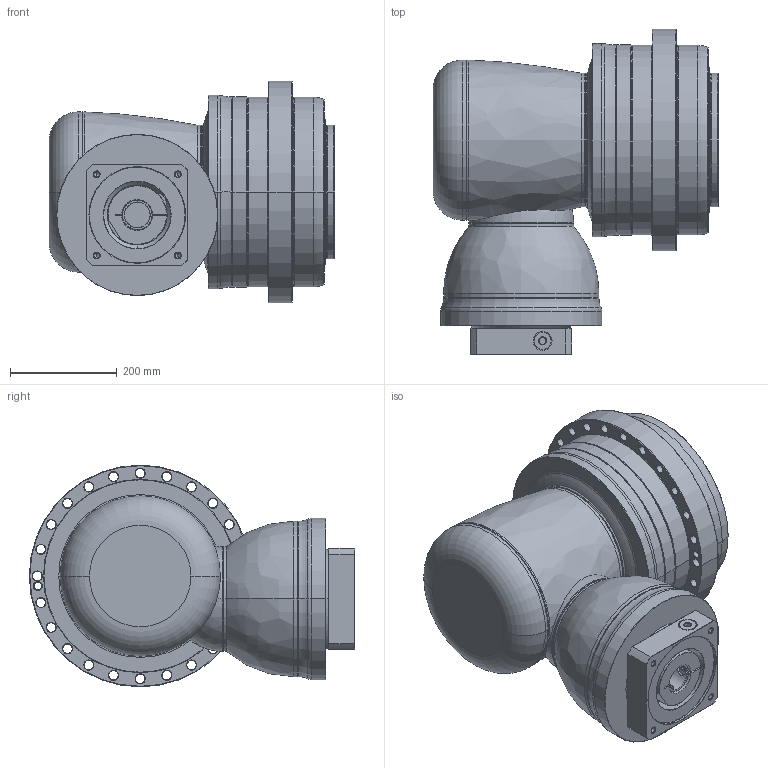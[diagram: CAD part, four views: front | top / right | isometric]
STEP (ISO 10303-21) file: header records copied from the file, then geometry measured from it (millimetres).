
FILE_DESCRIPTION((''),'2;1');
FILE_NAME('APK355_2ST_48-P0409B10201_ASM','2018-07-02T',('D00080'),(''),'PRO/ENGINEER BY PARAMETRIC TECHNOLOGY CORPORATION, 2008170','PRO/ENGINEER BY PARAMETRIC TECHNOLOGY CORPORATION, 2008170','');
FILE_SCHEMA(('CONFIG_CONTROL_DESIGN'));
Length unit declared in the file: millimetre
Products named in the file (13): P1008800002; P1315800001; P1007801001; P1318810301; P1831100001; P0276101003; P0357101103; P1222100001; P0503B00016; P0912853001; P0409B10201; 21711426021; APK355_2ST_48-P0409B10201_ASM
Assembly tree (12 placements, depth 2):
  APK355_2ST_48-P0409B10201_ASM
    P1008800002
    P1315800001
    P1007801001
    P1318810301
    P1831100001
    P0276101003
    P0357101103
    P1222100001
    P0503B00016
    P0912853001
    P0409B10201
    21711426021
Bounding box: 535 x 609 x 415 mm (x, y, z)
Volume: 59386683.4 mm3; surface area: 2611710.1 mm2
Topology: 13 solids, 40 shells, 797 faces, 1815 edges, 1090 vertices
Faces by surface type: cylinder 321, cone 232, plane 130, torus 92, bspline 20, sphere 2
Entity records: 27930 total; most frequent: CARTESIAN_POINT 9295, DIRECTION 4306, ORIENTED_EDGE 3432, AXIS2_PLACEMENT_3D 1843, EDGE_CURVE 1771, VERTEX_POINT 1090, CIRCLE 1029, EDGE_LOOP 955
